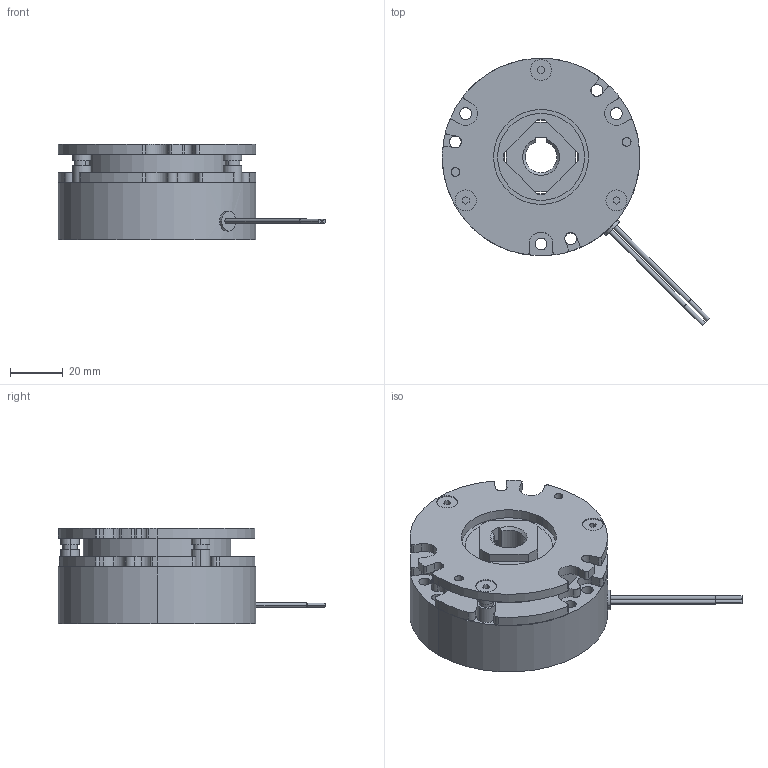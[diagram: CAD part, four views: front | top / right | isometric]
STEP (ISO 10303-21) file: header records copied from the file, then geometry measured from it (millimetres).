
FILE_DESCRIPTION (( 'STEP AP214' ), '1' );
FILE_NAME ('BXW-05-10H.STEP', '2017-06-27T08:02:30', ( 'MIKI' ), ( '' ), 'SwSTEP 2.0', 'SolidWorks 2012', '' );
FILE_SCHEMA (( 'AUTOMOTIVE_DESIGN' ));
Length unit declared in the file: millimetre
Products named in the file (1): BXW-05-10H
Bounding box: 101.51 x 101.51 x 36.1 mm (x, y, z)
Volume: 121968.2 mm3; surface area: 35750.1 mm2
Topology: 1 solids, 1 shells, 289 faces, 749 edges, 488 vertices
Faces by surface type: cylinder 160, plane 111, cone 18
Entity records: 12398 total; most frequent: CARTESIAN_POINT 1767, DIRECTION 1643, ORIENTED_EDGE 1490, EDGE_CURVE 745, AXIS2_PLACEMENT_3D 620, VERTEX_POINT 488, LINE 403, VECTOR 403
